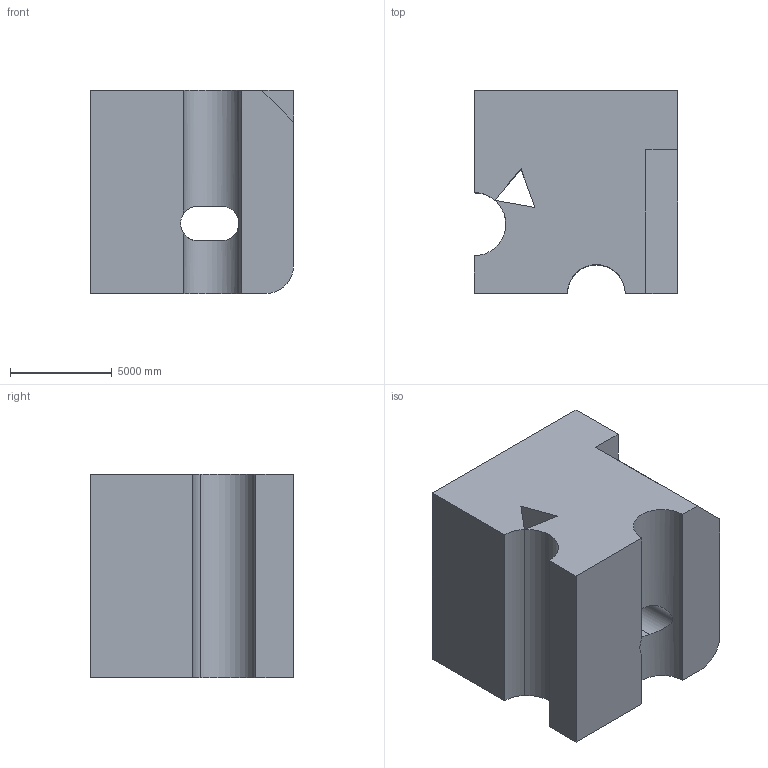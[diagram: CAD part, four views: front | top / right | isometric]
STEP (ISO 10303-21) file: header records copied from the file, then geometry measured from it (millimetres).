
FILE_DESCRIPTION (( 'STEP AP203' ), '1' );
FILE_NAME ('351.STEP', '2022-09-07T13:06:00', ( 'user' ), ( '' ), 'SwSTEP 2.0', 'SolidWorks 2021', '' );
FILE_SCHEMA (( 'CONFIG_CONTROL_DESIGN' ));
Length unit declared in the file: centimetre
Products named in the file (1): 351
Bounding box: 10000 x 10000 x 10000 mm (x, y, z)
Volume: 828343830053.9 mm3; surface area: 782684490.5 mm2
Topology: 1 solids, 1 shells, 31 faces, 84 edges, 56 vertices
Faces by surface type: plane 18, cylinder 13
Entity records: 1330 total; most frequent: CARTESIAN_POINT 441, DIRECTION 173, ORIENTED_EDGE 168, EDGE_CURVE 84, AXIS2_PLACEMENT_3D 60, VERTEX_POINT 56, LINE 53, VECTOR 53
